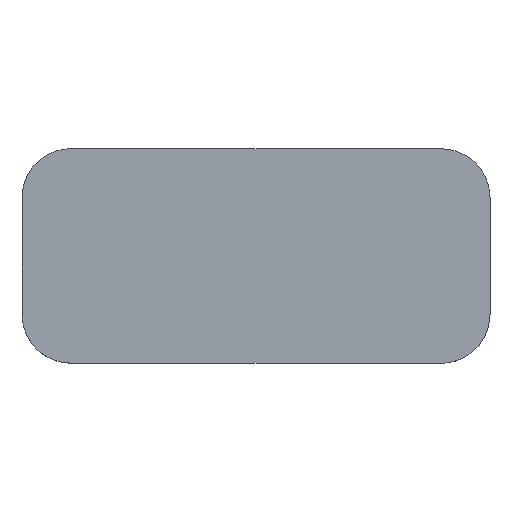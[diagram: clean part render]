
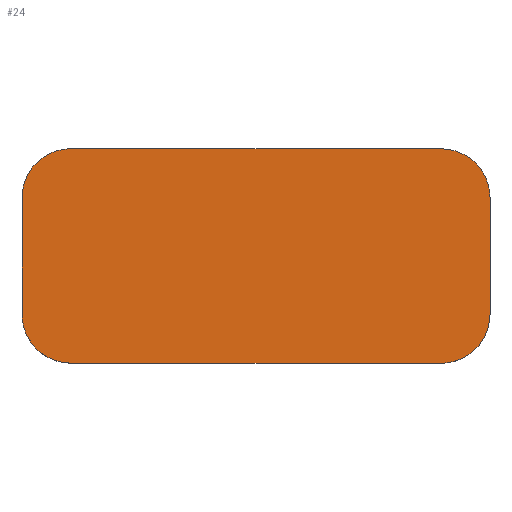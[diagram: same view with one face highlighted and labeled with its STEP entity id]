
A CAD part, top view. The second image highlights one B-rep face of the part: STEP entity #24.
In plain terms, the highlighted planar face has unit normal (0, 0, 1).
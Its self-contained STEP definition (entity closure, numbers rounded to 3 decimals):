
#24=ADVANCED_FACE('',(#39),#220,.T.);
#39=FACE_OUTER_BOUND('',#54,.T.);
#54=EDGE_LOOP('',(#94,#95,#96,#97,#98,#99,#100,#101));
#94=ORIENTED_EDGE('',*,*,#152,.F.);
#95=ORIENTED_EDGE('',*,*,#149,.F.);
#96=ORIENTED_EDGE('',*,*,#146,.F.);
#97=ORIENTED_EDGE('',*,*,#143,.F.);
#98=ORIENTED_EDGE('',*,*,#140,.F.);
#99=ORIENTED_EDGE('',*,*,#137,.F.);
#100=ORIENTED_EDGE('',*,*,#134,.F.);
#101=ORIENTED_EDGE('',*,*,#130,.F.);
#130=EDGE_CURVE('',#198,#199,#164,.T.);
#134=EDGE_CURVE('',#199,#202,#168,.T.);
#137=EDGE_CURVE('',#202,#204,#171,.T.);
#140=EDGE_CURVE('',#204,#206,#174,.T.);
#143=EDGE_CURVE('',#206,#208,#177,.T.);
#146=EDGE_CURVE('',#208,#210,#180,.T.);
#149=EDGE_CURVE('',#210,#212,#183,.T.);
#152=EDGE_CURVE('',#212,#198,#186,.T.);
#164=(
BOUNDED_CURVE()
B_SPLINE_CURVE(2,(#402,#403,#404),.UNSPECIFIED.,.F.,.F.)
B_SPLINE_CURVE_WITH_KNOTS((3,3),(-838.527,-788.223),
 .UNSPECIFIED.)
CURVE()
GEOMETRIC_REPRESENTATION_ITEM()
RATIONAL_B_SPLINE_CURVE((1.,0.707,1.))
REPRESENTATION_ITEM('')
);
#168=(
BOUNDED_CURVE()
B_SPLINE_CURVE(2,(#412,#413,#414),.UNSPECIFIED.,.F.,.F.)
B_SPLINE_CURVE_WITH_KNOTS((3,3),(-788.223,-711.907),
 .UNSPECIFIED.)
CURVE()
GEOMETRIC_REPRESENTATION_ITEM()
RATIONAL_B_SPLINE_CURVE((1.,1.,1.))
REPRESENTATION_ITEM('')
);
#171=(
BOUNDED_CURVE()
B_SPLINE_CURVE(2,(#420,#421,#422),.UNSPECIFIED.,.F.,.F.)
B_SPLINE_CURVE_WITH_KNOTS((3,3),(-711.907,-661.602),
 .UNSPECIFIED.)
CURVE()
GEOMETRIC_REPRESENTATION_ITEM()
RATIONAL_B_SPLINE_CURVE((1.,0.707,1.))
REPRESENTATION_ITEM('')
);
#174=(
BOUNDED_CURVE()
B_SPLINE_CURVE(2,(#428,#429,#430),.UNSPECIFIED.,.F.,.F.)
B_SPLINE_CURVE_WITH_KNOTS((3,3),(-661.602,-419.264),
 .UNSPECIFIED.)
CURVE()
GEOMETRIC_REPRESENTATION_ITEM()
RATIONAL_B_SPLINE_CURVE((1.,1.,1.))
REPRESENTATION_ITEM('')
);
#177=(
BOUNDED_CURVE()
B_SPLINE_CURVE(2,(#436,#437,#438),.UNSPECIFIED.,.F.,.F.)
B_SPLINE_CURVE_WITH_KNOTS((3,3),(-419.264,-368.959),
 .UNSPECIFIED.)
CURVE()
GEOMETRIC_REPRESENTATION_ITEM()
RATIONAL_B_SPLINE_CURVE((1.,0.707,1.))
REPRESENTATION_ITEM('')
);
#180=(
BOUNDED_CURVE()
B_SPLINE_CURVE(2,(#444,#445,#446),.UNSPECIFIED.,.F.,.F.)
B_SPLINE_CURVE_WITH_KNOTS((3,3),(-368.959,-292.643),
 .UNSPECIFIED.)
CURVE()
GEOMETRIC_REPRESENTATION_ITEM()
RATIONAL_B_SPLINE_CURVE((1.,1.,1.))
REPRESENTATION_ITEM('')
);
#183=(
BOUNDED_CURVE()
B_SPLINE_CURVE(2,(#452,#453,#454),.UNSPECIFIED.,.F.,.F.)
B_SPLINE_CURVE_WITH_KNOTS((3,3),(-292.643,-242.338),
 .UNSPECIFIED.)
CURVE()
GEOMETRIC_REPRESENTATION_ITEM()
RATIONAL_B_SPLINE_CURVE((1.,0.707,1.))
REPRESENTATION_ITEM('')
);
#186=(
BOUNDED_CURVE()
B_SPLINE_CURVE(2,(#460,#461,#462),.UNSPECIFIED.,.F.,.F.)
B_SPLINE_CURVE_WITH_KNOTS((3,3),(-242.338,0.),.UNSPECIFIED.)
CURVE()
GEOMETRIC_REPRESENTATION_ITEM()
RATIONAL_B_SPLINE_CURVE((1.,1.,1.))
REPRESENTATION_ITEM('')
);
#198=VERTEX_POINT('',#380);
#199=VERTEX_POINT('',#381);
#202=VERTEX_POINT('',#384);
#204=VERTEX_POINT('',#386);
#206=VERTEX_POINT('',#388);
#208=VERTEX_POINT('',#390);
#210=VERTEX_POINT('',#392);
#212=VERTEX_POINT('',#394);
#220=PLANE('',#255);
#255=AXIS2_PLACEMENT_3D('',#315,#261,$);
#261=DIRECTION('',(0.,0.,1.));
#315=CARTESIAN_POINT('',(215.461,-86.893,194.406));
#380=CARTESIAN_POINT('',(-97.201,-69.347,194.406));
#381=CARTESIAN_POINT('',(-129.226,-37.322,194.406));
#384=CARTESIAN_POINT('',(-129.226,38.993,194.406));
#386=CARTESIAN_POINT('',(-97.201,71.018,194.406));
#388=CARTESIAN_POINT('',(145.137,71.018,194.406));
#390=CARTESIAN_POINT('',(177.162,38.993,194.406));
#392=CARTESIAN_POINT('',(177.162,-37.322,194.406));
#394=CARTESIAN_POINT('',(145.137,-69.347,194.406));
#402=CARTESIAN_POINT('',(-97.201,-69.347,194.406));
#403=CARTESIAN_POINT('',(-129.226,-69.347,194.406));
#404=CARTESIAN_POINT('',(-129.226,-37.322,194.406));
#412=CARTESIAN_POINT('',(-129.226,-37.322,194.406));
#413=CARTESIAN_POINT('',(-129.226,0.835,194.406));
#414=CARTESIAN_POINT('',(-129.226,38.993,194.406));
#420=CARTESIAN_POINT('',(-129.226,38.993,194.406));
#421=CARTESIAN_POINT('',(-129.226,71.018,194.406));
#422=CARTESIAN_POINT('',(-97.201,71.018,194.406));
#428=CARTESIAN_POINT('',(-97.201,71.018,194.406));
#429=CARTESIAN_POINT('',(23.968,71.018,194.406));
#430=CARTESIAN_POINT('',(145.137,71.018,194.406));
#436=CARTESIAN_POINT('',(145.137,71.018,194.406));
#437=CARTESIAN_POINT('',(177.162,71.018,194.406));
#438=CARTESIAN_POINT('',(177.162,38.993,194.406));
#444=CARTESIAN_POINT('',(177.162,38.993,194.406));
#445=CARTESIAN_POINT('',(177.162,0.835,194.406));
#446=CARTESIAN_POINT('',(177.162,-37.322,194.406));
#452=CARTESIAN_POINT('',(177.162,-37.322,194.406));
#453=CARTESIAN_POINT('',(177.162,-69.347,194.406));
#454=CARTESIAN_POINT('',(145.137,-69.347,194.406));
#460=CARTESIAN_POINT('',(145.137,-69.347,194.406));
#461=CARTESIAN_POINT('',(23.968,-69.347,194.406));
#462=CARTESIAN_POINT('',(-97.201,-69.347,194.406));
